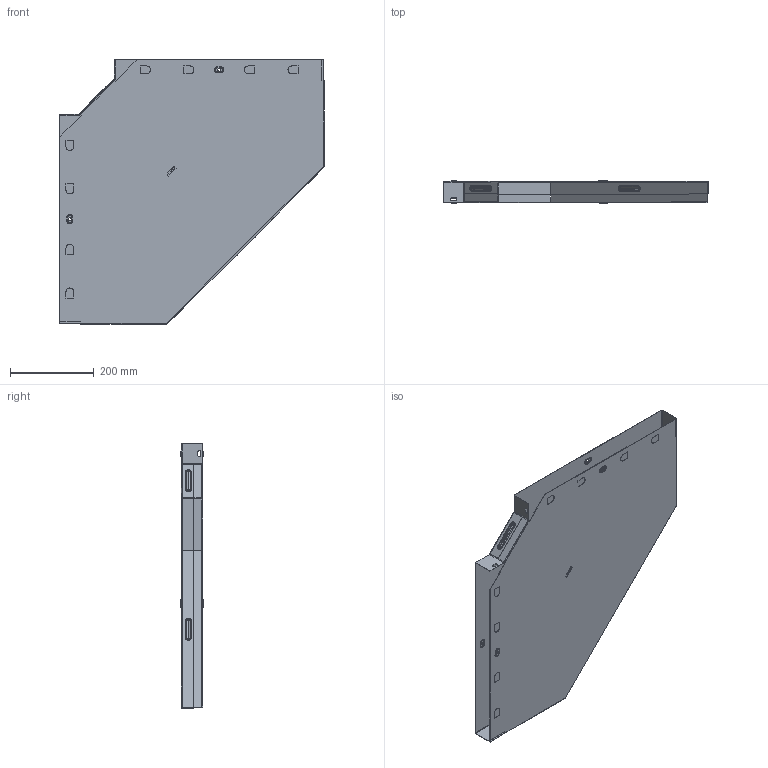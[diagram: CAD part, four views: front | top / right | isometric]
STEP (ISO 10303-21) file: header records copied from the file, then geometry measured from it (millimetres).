
FILE_DESCRIPTION (( 'STEP AP214' ), '1' );
FILE_NAME ('g9050500_捘.STEP', '2019-06-10T09:53:31', ( '砐錪賧瘔蠈錪 Windows' ), ( '' ), 'SwSTEP 2.0', 'SolidWorks 2018', '' );
FILE_SCHEMA (( 'AUTOMOTIVE_DESIGN' ));
Length unit declared in the file: millimetre
Products named in the file (1): g9050500_捘
Bounding box: 630.8 x 53.8 x 630.8 mm (x, y, z)
Volume: 567355 mm3; surface area: 1423710.5 mm2
Topology: 2 solids, 2 shells, 539 faces, 1461 edges, 942 vertices
Faces by surface type: plane 312, cylinder 137, torus 64, bspline 26
Entity records: 18246 total; most frequent: CARTESIAN_POINT 4419, ORIENTED_EDGE 2922, DIRECTION 2779, EDGE_CURVE 1461, LINE 1043, VECTOR 1043, VERTEX_POINT 942, AXIS2_PLACEMENT_3D 868
